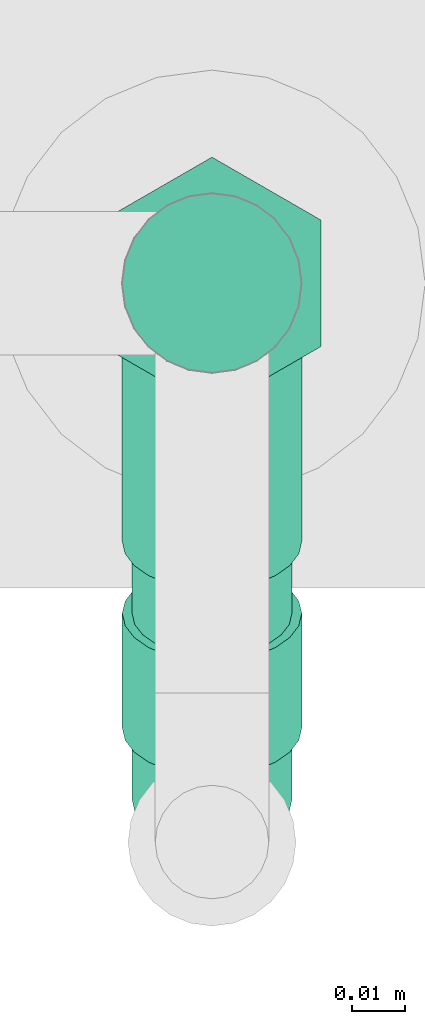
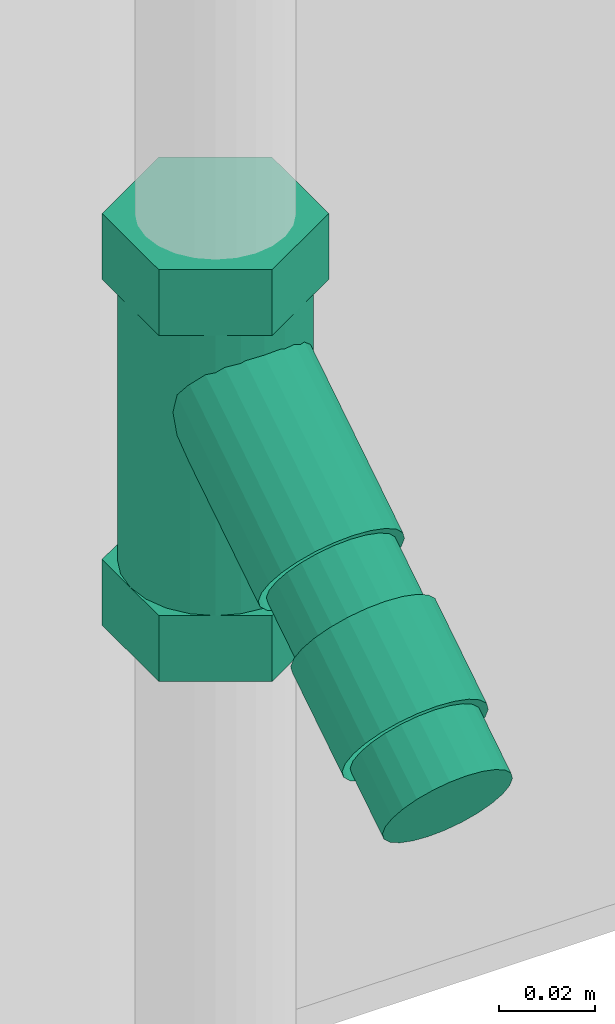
# One storey, part 266 of 374: 1 flow treatment device.
"""IFC2X3 building model written with IfcOpenShell, lengths in metres."""

from ifc_helpers import new_model, si_unit, direction, origin, place, context, subcontext, project, spatial, open_shell, surface_model, source, transform, mapped, element, save


model = new_model("IFC2X3")

# Units and contexts
model_context = context("Model", 3, precision=1e-05, world=origin(), true_north=direction((-0.4480736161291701, 0.8939966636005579)))
body_context = subcontext(model_context, "Body", "Model", "MODEL_VIEW")
ifc_project = project(units=[si_unit("LENGTHUNIT", "METRE"), si_unit("AREAUNIT", "SQUARE_METRE"), si_unit("VOLUMEUNIT", "CUBIC_METRE"), si_unit("PLANEANGLEUNIT", "RADIAN"), si_unit("THERMODYNAMICTEMPERATUREUNIT", "KELVIN"), si_unit("MASSUNIT", "GRAM", prefix="KILO"), si_unit("TIMEUNIT", "SECOND")], contexts=[model_context])

# Site, building, storey
site_placement = place(None, origin())
site = spatial("IfcSite", under=ifc_project, at=site_placement, Name="Site 1", CompositionType="ELEMENT")
building_placement = place(site_placement, origin())
building = spatial("IfcBuilding", under=site, at=building_placement, Name="Undefined", CompositionType="ELEMENT")
storey_placement = place(building_placement, origin())
storey = spatial("IfcBuildingStorey", under=building, at=storey_placement, Name="Rez de chauss\x8ee", CompositionType="ELEMENT", Elevation=0.0)

# Flow treatment device
shared_shape = source(origin(), body_context, "Body", "SurfaceModel", [
    surface_model("IfcFaceBasedSurfaceModel", [(0.0, 0.004398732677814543, 0.0), (0.0, 0.0, 0.0), (0.027775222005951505, 0.0, -2.664535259e-15), (0.026728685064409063, 0.004398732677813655, -3.552713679e-15), (0.0, -0.004248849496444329, -0.00113847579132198), (0.030843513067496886, -0.00424884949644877, -0.0011384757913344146), (0.0, -0.008058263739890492, -0.003337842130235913), (0.035724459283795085, -0.008058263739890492, -0.003337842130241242), (0.0, -0.01116863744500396, -0.0064482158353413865), (0.042085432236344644, -0.011168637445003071, -0.006448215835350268), (0.0, -0.013368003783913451, -0.010257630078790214), (0.04949294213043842, -0.013368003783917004, -0.010257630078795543), (0.0, -0.014506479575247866, -0.014506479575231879), (0.05744217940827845, -0.01450647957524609, -0.014506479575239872), (0.0, -0.01450647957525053, -0.01890521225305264), (0.055049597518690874, -0.014506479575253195, -0.018905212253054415), (0.0, -0.013368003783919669, -0.023154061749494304), (0.052820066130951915, -0.013368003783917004, -0.023154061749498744), (0.0, -0.011168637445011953, -0.02696347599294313), (0.050905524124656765, -0.011168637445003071, -0.026963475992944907), (0.0, -0.008058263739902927, -0.03007384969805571), (0.04943644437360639, -0.008058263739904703, -0.0300738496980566), (0.0, -0.004248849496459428, -0.03227321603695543), (0.04851294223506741, -0.00424884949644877, -0.032273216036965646), (0.0, -1.5099033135e-14, -0.03341169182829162), (0.04819795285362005, -1.4210854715e-14, -0.03341169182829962), (0.0, 0.00439873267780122, -0.03341169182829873), (0.04851294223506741, 0.004398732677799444, -0.03341169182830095), (0.0, 0.008647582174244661, -0.03227321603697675), (0.04943644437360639, 0.008647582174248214, -0.03227321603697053), (0.0, 0.012456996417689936, -0.030073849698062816), (0.050905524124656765, 0.012456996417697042, -0.030073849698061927), (0.0, 0.01556737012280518, -0.026963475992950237), (0.052820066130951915, 0.015567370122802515, -0.02696347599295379), (0.0, 0.017766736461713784, -0.023154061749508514), (0.055049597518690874, 0.017766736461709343, -0.023154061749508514), (0.0, 0.018905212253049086, -0.01890521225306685), (0.05744217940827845, 0.018905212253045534, -0.01890521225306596), (0.0, 0.018905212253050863, -0.01450647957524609), (0.04949294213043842, 0.018905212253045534, -0.014506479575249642), (0.0, 0.01776673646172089, -0.01025763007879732), (0.042085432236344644, 0.017766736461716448, -0.010257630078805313), (0.0, 0.015567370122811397, -0.006448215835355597), (0.035724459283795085, 0.01556737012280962, -0.006448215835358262), (0.0, 0.012456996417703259, -0.0033378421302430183), (0.030843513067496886, 0.012456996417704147, -0.0033378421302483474), (0.0, 0.00864758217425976, -0.0011384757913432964), (0.027775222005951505, 0.00864758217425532, -0.0011384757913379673), (0.08386093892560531, -0.020662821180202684, -0.03330480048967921), (0.06389671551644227, -0.022322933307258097, -0.04591460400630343), (0.05487008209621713, -0.020473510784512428, -0.031866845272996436), (0.07483430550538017, -0.018813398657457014, -0.019257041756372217), (0.0938430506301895, 0.0004918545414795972, -0.029675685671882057), (0.08481641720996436, 0.0023412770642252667, -0.015627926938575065), (0.08386093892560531, 0.019986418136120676, -0.03865637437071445), (0.07483430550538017, 0.021835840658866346, -0.02460861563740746), (0.06389671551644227, 0.018326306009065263, -0.05126617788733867), (0.05487008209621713, 0.020175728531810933, -0.03721841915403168), (0.053914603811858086, -0.0028283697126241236, -0.054895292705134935), (0.04488797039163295, -0.000978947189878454, -0.04084753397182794), (0.06485219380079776, 0.02100578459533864, -0.030913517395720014), (0.060377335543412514, 0.01994113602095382, -0.033648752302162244), (0.0220141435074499, 0.027801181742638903, 0.026054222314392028), (0.02648900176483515, 0.028865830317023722, 0.028789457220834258), (0.05620743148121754, 0.017563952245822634, -0.03601523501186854), (0.017844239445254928, 0.025423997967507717, 0.02368773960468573), (0.052626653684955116, 0.014036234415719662, -0.03785169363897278), (0.014263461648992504, 0.021896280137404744, 0.02185128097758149), (0.04987902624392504, 0.00959839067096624, -0.0390329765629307), (0.011515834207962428, 0.017458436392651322, 0.020669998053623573), (0.048151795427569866, 0.004552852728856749, -0.03947858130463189), (0.009788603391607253, 0.012412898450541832, 0.020224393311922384), (0.047562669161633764, -0.0007565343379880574, -0.03915814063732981), (0.009199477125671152, 0.007103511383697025, 0.020544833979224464), (0.048151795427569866, -0.0059679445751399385, -0.038093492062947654), (0.009788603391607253, 0.0018921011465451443, 0.021609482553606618), (0.04987902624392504, -0.01072622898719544, -0.03635718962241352), (0.011515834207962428, -0.002866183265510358, 0.02334578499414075), (0.052626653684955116, -0.014707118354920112, -0.03406755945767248), (0.014263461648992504, -0.00684707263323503, 0.02563541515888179), (0.05620743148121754, -0.017639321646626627, -0.031380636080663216), (0.017844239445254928, -0.009779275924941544, 0.028322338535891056), (0.060377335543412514, -0.019323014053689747, -0.02847952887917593), (0.0220141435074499, -0.011462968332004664, 0.03122344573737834), (0.06485219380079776, -0.01964345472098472, -0.02556194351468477), (0.02648900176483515, -0.011783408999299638, 0.0341410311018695), (0.06932705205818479, -0.018578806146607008, -0.02282670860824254), (0.030963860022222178, -0.010718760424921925, 0.03687626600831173), (0.07349695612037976, -0.016201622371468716, -0.020460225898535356), (0.03513376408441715, -0.008341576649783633, 0.039242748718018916), (0.07707773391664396, -0.012673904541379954, -0.018623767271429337), (0.03871454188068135, -0.004813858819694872, 0.041079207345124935), (0.07982536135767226, -0.008236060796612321, -0.017442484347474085), (0.04146216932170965, -0.0003760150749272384, 0.042260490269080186), (0.08155259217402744, -0.0031905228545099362, -0.016996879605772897), (0.043189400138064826, 0.0046695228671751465, 0.042706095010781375), (0.08214171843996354, 0.00211886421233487, -0.0173173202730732), (0.04377852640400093, 0.009978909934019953, 0.04238565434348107), (0.08155259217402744, 0.007330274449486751, -0.01838196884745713), (0.043189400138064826, 0.015190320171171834, 0.04132100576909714), (0.07982536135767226, 0.012088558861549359, -0.020118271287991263), (0.04146216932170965, 0.01994860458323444, 0.03958470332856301), (0.07707773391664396, 0.01606944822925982, -0.02240790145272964), (0.03871454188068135, 0.023929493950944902, 0.03729507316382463), (0.07349695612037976, 0.019001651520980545, -0.02509482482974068), (0.03513376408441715, 0.026861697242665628, 0.03460814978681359), (0.06932705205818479, 0.02068534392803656, -0.027995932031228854), (0.030963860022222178, 0.028545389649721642, 0.03170704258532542), (0.03647111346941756, -0.010953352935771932, 0.040445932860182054), (0.01650689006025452, -0.012613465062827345, 0.027836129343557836), (0.007480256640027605, -0.01076404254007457, 0.041883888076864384), (0.027444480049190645, -0.009103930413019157, 0.0544936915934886), (0.046453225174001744, 0.01020132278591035, 0.04407504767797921), (0.03742659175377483, 0.012050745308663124, 0.058122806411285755), (0.03647111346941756, 0.02969588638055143, 0.03509435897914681), (0.027444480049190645, 0.0315453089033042, 0.04914211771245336), (0.01650689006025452, 0.028035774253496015, 0.022484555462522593), (0.007480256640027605, 0.02988519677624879, 0.03653231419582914), (0.006524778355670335, 0.006881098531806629, 0.01885544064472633), (-0.0025018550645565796, 0.008730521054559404, 0.03290319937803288), (1.776356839e-15, 0.017071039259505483, -0.018663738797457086), (1.776356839e-15, 0.01605755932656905, -0.022446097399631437), (-0.015999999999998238, 0.01605755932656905, -0.022446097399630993), (-0.016000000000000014, 0.017071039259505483, -0.018663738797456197), (0.0, 0.014099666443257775, -0.025837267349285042), (-0.016000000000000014, 0.014099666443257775, -0.0258372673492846), (0.0, 0.0113307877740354, -0.028606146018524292), (-0.016000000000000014, 0.0113307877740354, -0.028606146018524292), (0.0, 0.00793961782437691, -0.030564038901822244), (-0.016000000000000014, 0.00793961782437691, -0.0305640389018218), (0.0, 0.004157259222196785, -0.03157751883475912), (-0.016000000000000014, 0.004157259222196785, -0.031577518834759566), (0.0, 0.00024147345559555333, -0.03157751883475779), (-0.016000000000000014, 0.00024147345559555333, -0.03157751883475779), (0.0, -0.0035408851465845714, -0.030564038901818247), (-0.016000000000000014, -0.0035408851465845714, -0.03056403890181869), (0.0, -0.006932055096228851, -0.028606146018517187), (-0.016000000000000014, -0.006932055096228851, -0.028606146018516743), (0.0, -0.009700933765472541, -0.025837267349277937), (-0.016000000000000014, -0.009700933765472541, -0.025837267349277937), (0.0, -0.01165882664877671, -0.022446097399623), (-0.016000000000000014, -0.01165882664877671, -0.022446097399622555), (1.776356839e-15, -0.012672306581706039, -0.01866373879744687), (-0.015999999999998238, -0.012672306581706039, -0.018663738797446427), (1.776356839e-15, -0.012672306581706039, -0.014747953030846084), (-0.016000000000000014, -0.012672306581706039, -0.014747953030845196), (0.0, -0.0116588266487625, -0.010965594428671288), (-0.016000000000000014, -0.0116588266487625, -0.010965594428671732), (1.776356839e-15, -0.009700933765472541, -0.007574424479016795), (-0.015999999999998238, -0.009700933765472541, -0.007574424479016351), (3.552713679e-15, -0.006932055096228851, -0.004805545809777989), (-0.015999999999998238, -0.006932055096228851, -0.004805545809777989), (0.0, -0.0035408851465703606, -0.002847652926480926), (-0.016000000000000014, -0.0035408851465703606, -0.002847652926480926), (0.0, 0.00024147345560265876, -0.0018341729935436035), (-0.016000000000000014, 0.00024147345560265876, -0.0018341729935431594), (0.0, 0.004157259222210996, -0.0018341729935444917), (-0.015999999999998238, 0.004157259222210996, -0.0018341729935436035), (0.0, 0.007939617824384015, -0.0028476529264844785), (-0.016000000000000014, 0.007939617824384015, -0.0028476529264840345), (0.0, 0.0113307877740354, -0.004805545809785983), (-0.016000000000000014, 0.0113307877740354, -0.004805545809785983), (3.552713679e-15, 0.01409966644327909, -0.007574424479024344), (-0.015999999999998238, 0.01409966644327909, -0.007574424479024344), (1.776356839e-15, 0.016057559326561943, -0.010965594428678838), (-0.015999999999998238, 0.016057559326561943, -0.010965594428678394), (0.0, 0.017071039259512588, -0.014747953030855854), (-0.016000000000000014, 0.017071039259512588, -0.014747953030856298), (1.776356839e-15, 0.002199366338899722, -0.01670584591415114), (-0.016000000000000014, 0.002199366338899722, -0.016705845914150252), (-0.016000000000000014, 0.018905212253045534, -0.018905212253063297), (-0.016000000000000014, 0.017766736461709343, -0.02315406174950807), (-0.04149911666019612, 0.017766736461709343, -0.023154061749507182), (-0.041499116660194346, 0.018905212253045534, -0.018905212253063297), (-0.016000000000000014, 0.015567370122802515, -0.0269634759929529), (-0.041499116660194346, 0.015567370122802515, -0.02696347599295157), (-0.016000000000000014, 0.012456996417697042, -0.03007384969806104), (-0.04149911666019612, 0.012456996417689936, -0.03007384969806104), (-0.015999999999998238, 0.00864758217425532, -0.03227321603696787), (-0.04149911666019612, 0.008647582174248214, -0.03227321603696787), (-0.01600000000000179, 0.004398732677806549, -0.03341169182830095), (-0.04149911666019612, 0.004398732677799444, -0.03341169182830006), (-0.01600000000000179, -1.4210854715e-14, -0.03341169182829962), (-0.041499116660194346, -7.105427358e-15, -0.033411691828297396), (-0.01600000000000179, -0.00424884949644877, -0.032273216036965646), (-0.04149911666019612, -0.004248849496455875, -0.03227321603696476), (-0.015999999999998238, -0.008058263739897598, -0.030073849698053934), (-0.04149911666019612, -0.008058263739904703, -0.030073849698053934), (-0.016000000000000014, -0.011168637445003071, -0.02696347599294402), (-0.04149911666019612, -0.011168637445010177, -0.02696347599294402), (-0.016000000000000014, -0.013368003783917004, -0.023154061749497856), (-0.041499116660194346, -0.013368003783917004, -0.023154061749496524), (-0.016000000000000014, -0.014506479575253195, -0.01890521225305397), (-0.04149911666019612, -0.014506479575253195, -0.018905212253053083), (-0.016000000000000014, -0.01450647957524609, -0.014506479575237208), (-0.041499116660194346, -0.01450647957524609, -0.014506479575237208), (-0.015999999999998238, -0.013368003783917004, -0.010257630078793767), (-0.041499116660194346, -0.013368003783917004, -0.010257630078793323), (-0.015999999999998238, -0.011168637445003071, -0.006448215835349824), (-0.041499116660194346, -0.011168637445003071, -0.006448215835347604), (-0.015999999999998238, -0.008058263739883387, -0.003337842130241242), (-0.041499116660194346, -0.008058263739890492, -0.003337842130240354), (-0.016000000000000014, -0.0042488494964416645, -0.0011384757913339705), (-0.041499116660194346, -0.00424884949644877, -0.0011384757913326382), (-0.015999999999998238, 0.0, 0.0), (-0.041499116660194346, 0.0, -1.33226763e-15), (-0.015999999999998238, 0.004398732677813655, -2.664535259e-15), (-0.041499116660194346, 0.004398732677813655, -8.8817842e-16), (-0.015999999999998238, 0.008647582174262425, -0.001138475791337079), (-0.041499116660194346, 0.00864758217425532, -0.001138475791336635), (-0.016000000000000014, 0.012456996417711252, -0.0033378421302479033), (-0.041499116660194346, 0.012456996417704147, -0.003337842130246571), (-0.015999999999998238, 0.015567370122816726, -0.006448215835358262), (-0.041499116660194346, 0.01556737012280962, -0.006448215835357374), (-0.015999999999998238, 0.017766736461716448, -0.010257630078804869), (-0.041499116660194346, 0.017766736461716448, -0.010257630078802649), (-0.015999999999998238, 0.018905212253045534, -0.014506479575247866), (-0.041499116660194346, 0.018905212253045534, -0.014506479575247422), (-0.041499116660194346, 0.017071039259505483, -0.018663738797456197), (-0.041499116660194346, 0.016057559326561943, -0.022446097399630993), (-0.05749911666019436, 0.016057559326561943, -0.022446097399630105), (-0.05749911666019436, 0.017071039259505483, -0.01866373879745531), (-0.041499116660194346, 0.014099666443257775, -0.025837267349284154), (-0.05749911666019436, 0.014099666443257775, -0.02583726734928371), (-0.04149911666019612, 0.011330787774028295, -0.028606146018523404), (-0.05749911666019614, 0.011330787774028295, -0.028606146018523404), (-0.04149911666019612, 0.007939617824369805, -0.030564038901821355), (-0.05749911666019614, 0.007939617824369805, -0.030564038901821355), (-0.04149911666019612, 0.004157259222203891, -0.031577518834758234), (-0.05749911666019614, 0.004157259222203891, -0.03157751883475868), (-0.04149911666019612, 0.00024147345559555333, -0.0315775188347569), (-0.05749911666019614, 0.00024147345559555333, -0.03157751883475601), (-0.04149911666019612, -0.003540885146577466, -0.03056403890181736), (-0.05749911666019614, -0.003540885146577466, -0.030564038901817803), (-0.04149911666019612, -0.006932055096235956, -0.0286061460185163), (-0.05749911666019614, -0.006932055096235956, -0.0286061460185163), (-0.04149911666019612, -0.009700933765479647, -0.02583726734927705), (-0.05749911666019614, -0.009700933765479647, -0.02583726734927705), (-0.041499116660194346, -0.011658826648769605, -0.02244609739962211), (-0.05749911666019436, -0.01165882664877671, -0.022446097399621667), (-0.041499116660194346, -0.012672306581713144, -0.018663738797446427), (-0.05749911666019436, -0.012672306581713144, -0.01866373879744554), (-0.041499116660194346, -0.012672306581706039, -0.014747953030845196), (-0.05749911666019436, -0.012672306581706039, -0.014747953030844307), (-0.04149911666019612, -0.011658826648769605, -0.0109655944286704), (-0.05749911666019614, -0.011658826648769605, -0.010965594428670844), (-0.041499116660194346, -0.009700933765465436, -0.0075744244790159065), (-0.05749911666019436, -0.009700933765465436, -0.0075744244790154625), (-0.041499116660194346, -0.006932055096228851, -0.004805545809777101), (-0.05749911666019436, -0.006932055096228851, -0.004805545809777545), (-0.041499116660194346, -0.003540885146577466, -0.0028476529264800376), (-0.05749911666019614, -0.003540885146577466, -0.0028476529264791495), (-0.041499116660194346, 0.00024147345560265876, -0.0018341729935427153), (-0.05749911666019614, 0.00024147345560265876, -0.0018341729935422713), (-0.041499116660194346, 0.004157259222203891, -0.0018341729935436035), (-0.05749911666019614, 0.004157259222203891, -0.0018341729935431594), (-0.041499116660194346, 0.007939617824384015, -0.0028476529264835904), (-0.05749911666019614, 0.007939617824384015, -0.0028476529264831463), (-0.041499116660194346, 0.011330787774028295, -0.0048055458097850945), (-0.05749911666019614, 0.011330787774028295, -0.004805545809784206), (-0.041499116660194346, 0.01409966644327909, -0.007574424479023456), (-0.05749911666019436, 0.01409966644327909, -0.0075744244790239), (-0.041499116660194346, 0.01605755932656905, -0.01096559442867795), (-0.05749911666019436, 0.01605755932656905, -0.010965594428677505), (-0.04149911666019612, 0.017071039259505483, -0.014747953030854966), (-0.05749911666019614, 0.017071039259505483, -0.01474795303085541), (-0.041499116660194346, 0.002199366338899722, -0.016705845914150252), (-0.05749911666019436, 0.002199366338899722, -0.016705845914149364)], [open_shell([[[0, 1, 2, 3]], [[1, 4, 5, 2]], [[4, 6, 7, 5]], [[6, 8, 9, 7]], [[8, 10, 11, 9]], [[10, 12, 13, 11]], [[12, 14, 15, 13]], [[14, 16, 17, 15]], [[16, 18, 19, 17]], [[18, 20, 21, 19]], [[20, 22, 23, 21]], [[22, 24, 25, 23]], [[24, 26, 27, 25]], [[26, 28, 29, 27]], [[28, 30, 31, 29]], [[30, 32, 33, 31]], [[32, 34, 35, 33]], [[34, 36, 37, 35]], [[36, 38, 39, 37]], [[38, 40, 41, 39]], [[40, 42, 43, 41]], [[42, 44, 45, 43]], [[44, 46, 47, 45]], [[46, 0, 3, 47]], [[48, 49, 50, 51]], [[52, 48, 51, 53]], [[54, 52, 53, 55]], [[56, 54, 55, 57]], [[58, 56, 57, 59]], [[49, 58, 59, 50]], [[49, 48, 52]], [[49, 52, 54]], [[49, 54, 56]], [[49, 56, 58]], [[50, 53, 51]], [[50, 55, 53]], [[50, 57, 55]], [[50, 59, 57]], [[60, 61, 62, 63]], [[61, 64, 65, 62]], [[64, 66, 67, 65]], [[66, 68, 69, 67]], [[68, 70, 71, 69]], [[70, 72, 73, 71]], [[72, 74, 75, 73]], [[74, 76, 77, 75]], [[76, 78, 79, 77]], [[78, 80, 81, 79]], [[80, 82, 83, 81]], [[82, 84, 85, 83]], [[84, 86, 87, 85]], [[86, 88, 89, 87]], [[88, 90, 91, 89]], [[90, 92, 93, 91]], [[92, 94, 95, 93]], [[94, 96, 97, 95]], [[96, 98, 99, 97]], [[98, 100, 101, 99]], [[100, 102, 103, 101]], [[102, 104, 105, 103]], [[104, 106, 107, 105]], [[106, 60, 63, 107]], [[108, 109, 110, 111]], [[112, 108, 111, 113]], [[114, 112, 113, 115]], [[116, 114, 115, 117]], [[118, 116, 117, 119]], [[109, 118, 119, 110]], [[109, 108, 112]], [[109, 112, 114]], [[109, 114, 116]], [[109, 116, 118]], [[110, 113, 111]], [[110, 115, 113]], [[110, 117, 115]], [[110, 119, 117]], [[120, 121, 122, 123]], [[121, 124, 125, 122]], [[124, 126, 127, 125]], [[126, 128, 129, 127]], [[128, 130, 131, 129]], [[130, 132, 133, 131]], [[132, 134, 135, 133]], [[134, 136, 137, 135]], [[136, 138, 139, 137]], [[138, 140, 141, 139]], [[140, 142, 143, 141]], [[142, 144, 145, 143]], [[144, 146, 147, 145]], [[146, 148, 149, 147]], [[148, 150, 151, 149]], [[150, 152, 153, 151]], [[152, 154, 155, 153]], [[154, 156, 157, 155]], [[156, 158, 159, 157]], [[158, 160, 161, 159]], [[160, 162, 163, 161]], [[162, 164, 165, 163]], [[164, 166, 167, 165]], [[166, 120, 123, 167]], [[168, 121, 120]], [[168, 124, 121]], [[168, 126, 124]], [[168, 128, 126]], [[168, 130, 128]], [[168, 132, 130]], [[168, 134, 132]], [[168, 136, 134]], [[168, 138, 136]], [[168, 140, 138]], [[168, 142, 140]], [[168, 144, 142]], [[168, 146, 144]], [[168, 148, 146]], [[168, 150, 148]], [[168, 152, 150]], [[168, 154, 152]], [[168, 156, 154]], [[168, 158, 156]], [[168, 160, 158]], [[168, 162, 160]], [[168, 164, 162]], [[168, 166, 164]], [[168, 120, 166]], [[169, 167, 123]], [[169, 165, 167]], [[169, 163, 165]], [[169, 161, 163]], [[169, 159, 161]], [[169, 157, 159]], [[169, 155, 157]], [[169, 153, 155]], [[169, 151, 153]], [[169, 149, 151]], [[169, 147, 149]], [[169, 145, 147]], [[169, 143, 145]], [[169, 141, 143]], [[169, 139, 141]], [[169, 137, 139]], [[169, 135, 137]], [[169, 133, 135]], [[169, 131, 133]], [[169, 129, 131]], [[169, 127, 129]], [[169, 125, 127]], [[169, 122, 125]], [[169, 123, 122]], [[170, 171, 172, 173]], [[171, 174, 175, 172]], [[174, 176, 177, 175]], [[176, 178, 179, 177]], [[178, 180, 181, 179]], [[180, 182, 183, 181]], [[182, 184, 185, 183]], [[184, 186, 187, 185]], [[186, 188, 189, 187]], [[188, 190, 191, 189]], [[190, 192, 193, 191]], [[192, 194, 195, 193]], [[194, 196, 197, 195]], [[196, 198, 199, 197]], [[198, 200, 201, 199]], [[200, 202, 203, 201]], [[202, 204, 205, 203]], [[204, 206, 207, 205]], [[206, 208, 209, 207]], [[208, 210, 211, 209]], [[210, 212, 213, 211]], [[212, 214, 215, 213]], [[214, 216, 217, 215]], [[216, 170, 173, 217]], [[218, 219, 220, 221]], [[219, 222, 223, 220]], [[222, 224, 225, 223]], [[224, 226, 227, 225]], [[226, 228, 229, 227]], [[228, 230, 231, 229]], [[230, 232, 233, 231]], [[232, 234, 235, 233]], [[234, 236, 237, 235]], [[236, 238, 239, 237]], [[238, 240, 241, 239]], [[240, 242, 243, 241]], [[242, 244, 245, 243]], [[244, 246, 247, 245]], [[246, 248, 249, 247]], [[248, 250, 251, 249]], [[250, 252, 253, 251]], [[252, 254, 255, 253]], [[254, 256, 257, 255]], [[256, 258, 259, 257]], [[258, 260, 261, 259]], [[260, 262, 263, 261]], [[262, 264, 265, 263]], [[264, 218, 221, 265]], [[266, 219, 218]], [[266, 222, 219]], [[266, 224, 222]], [[266, 226, 224]], [[266, 228, 226]], [[266, 230, 228]], [[266, 232, 230]], [[266, 234, 232]], [[266, 236, 234]], [[266, 238, 236]], [[266, 240, 238]], [[266, 242, 240]], [[266, 244, 242]], [[266, 246, 244]], [[266, 248, 246]], [[266, 250, 248]], [[266, 252, 250]], [[266, 254, 252]], [[266, 256, 254]], [[266, 258, 256]], [[266, 260, 258]], [[266, 262, 260]], [[266, 264, 262]], [[266, 218, 264]], [[267, 265, 221]], [[267, 263, 265]], [[267, 261, 263]], [[267, 259, 261]], [[267, 257, 259]], [[267, 255, 257]], [[267, 253, 255]], [[267, 251, 253]], [[267, 249, 251]], [[267, 247, 249]], [[267, 245, 247]], [[267, 243, 245]], [[267, 241, 243]], [[267, 239, 241]], [[267, 237, 239]], [[267, 235, 237]], [[267, 233, 235]], [[267, 231, 233]], [[267, 229, 231]], [[267, 227, 229]], [[267, 225, 227]], [[267, 223, 225]], [[267, 220, 223]], [[267, 221, 220]]])]),
])
flow_treatment_device_placement = place(storey_placement, origin())
element("IfcFlowTreatmentDevice", 1, at=flow_treatment_device_placement, inside=storey, Name="Filtre en Y", ObjectType="Filtre en Y", context=body_context, shape_type="MappedRepresentation", body=[
    mapped(shared_shape, transform((53.45320091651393, 10.87833581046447, 1.7233915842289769), x_axis=(0.0, 0.8433914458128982, 0.5372996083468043), y_axis=(0.9914448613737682, 0.07013167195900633, -0.11008467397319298), z_axis=(-0.1305261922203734, 0.5327029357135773, -0.8361761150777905))),
])

save(model, "model.ifc")
